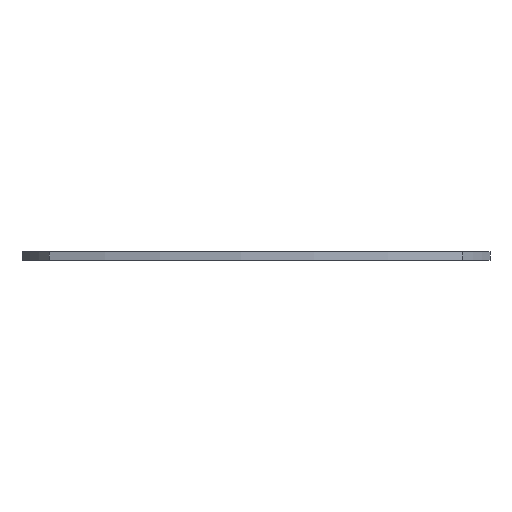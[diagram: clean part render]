
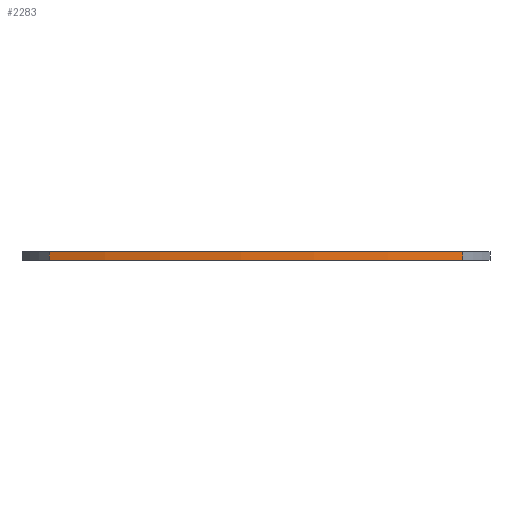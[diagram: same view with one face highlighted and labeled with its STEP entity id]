
A CAD part, front view. The second image highlights one B-rep face of the part: STEP entity #2283.
In plain terms, the highlighted free-form (B-spline) face has degree [2, 1] with [3, 2] control points.
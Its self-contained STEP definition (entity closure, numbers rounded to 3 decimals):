
#53 = B_SPLINE_CURVE_WITH_KNOTS ( 'NONE', 2,
 ( #2367, #2144, #711 ),
 .UNSPECIFIED., .F., .F.,
 ( 3, 3 ),
 ( 0., 1. ),
 .UNSPECIFIED. ) ;
#99 = CARTESIAN_POINT ( 'NONE',  ( -0.018, -80.898, 0. ) ) ;
#360 = B_SPLINE_CURVE_WITH_KNOTS ( 'NONE', 2,
 ( #858, #1898, #1677 ),
 .UNSPECIFIED., .F., .F.,
 ( 3, 3 ),
 ( 0., 1. ),
 .UNSPECIFIED. ) ;
#416 = EDGE_CURVE ( 'NONE', #1098, #1948, #360, .T. ) ;
#418 = VECTOR ( 'NONE', #2309, 1000. ) ;
#460 = B_SPLINE_SURFACE_WITH_KNOTS ( 'NONE', 2, 1, ( 
 ( #1364, #2022 ),
 ( #1399, #99 ),
 ( #2206, #2249 ) ),
 .UNSPECIFIED., .F., .F., .F.,
 ( 3, 3 ),
 ( 2, 2 ),
 ( 0., 1. ),
 ( 0., 1. ),
 .UNSPECIFIED. ) ;
#563 = FACE_OUTER_BOUND ( 'NONE', #2618, .T. ) ;
#630 = LINE ( 'NONE', #1455, #418 ) ;
#650 = CARTESIAN_POINT ( 'NONE',  ( 75.492, -55.21, 3. ) ) ;
#655 = ORIENTED_EDGE ( 'NONE', *, *, #1338, .T. ) ;
#711 = CARTESIAN_POINT ( 'NONE',  ( -75.517, -55.176, 3. ) ) ;
#835 = ORIENTED_EDGE ( 'NONE', *, *, #1625, .F. ) ;
#858 = CARTESIAN_POINT ( 'NONE',  ( 75.492, -55.21, 0. ) ) ;
#929 = VECTOR ( 'NONE', #2336, 1000. ) ;
#972 = CARTESIAN_POINT ( 'NONE',  ( -75.517, -55.176, 0. ) ) ;
#1098 = VERTEX_POINT ( 'NONE', #1539 ) ;
#1262 = ORIENTED_EDGE ( 'NONE', *, *, #416, .F. ) ;
#1338 = EDGE_CURVE ( 'NONE', #2403, #1660, #53, .T. ) ;
#1364 = CARTESIAN_POINT ( 'NONE',  ( 75.492, -55.21, 3. ) ) ;
#1399 = CARTESIAN_POINT ( 'NONE',  ( -0.018, -80.898, 3. ) ) ;
#1441 = CARTESIAN_POINT ( 'NONE',  ( 75.492, -55.21, 3. ) ) ;
#1455 = CARTESIAN_POINT ( 'NONE',  ( -75.517, -55.176, 3. ) ) ;
#1539 = CARTESIAN_POINT ( 'NONE',  ( 75.492, -55.21, 0. ) ) ;
#1625 = EDGE_CURVE ( 'NONE', #2403, #1098, #2094, .T. ) ;
#1660 = VERTEX_POINT ( 'NONE', #2141 ) ;
#1677 = CARTESIAN_POINT ( 'NONE',  ( -75.517, -55.176, 0. ) ) ;
#1898 = CARTESIAN_POINT ( 'NONE',  ( -0.018, -80.898, 0. ) ) ;
#1948 = VERTEX_POINT ( 'NONE', #972 ) ;
#2022 = CARTESIAN_POINT ( 'NONE',  ( 75.492, -55.21, 0. ) ) ;
#2094 = LINE ( 'NONE', #650, #929 ) ;
#2141 = CARTESIAN_POINT ( 'NONE',  ( -75.517, -55.176, 3. ) ) ;
#2144 = CARTESIAN_POINT ( 'NONE',  ( -0.018, -80.898, 3. ) ) ;
#2206 = CARTESIAN_POINT ( 'NONE',  ( -75.517, -55.176, 3. ) ) ;
#2249 = CARTESIAN_POINT ( 'NONE',  ( -75.517, -55.176, 0. ) ) ;
#2283 = ADVANCED_FACE ( 'NONE', ( #563 ), #460, .T. ) ;
#2309 = DIRECTION ( 'NONE',  ( 0., 0., -1. ) ) ;
#2336 = DIRECTION ( 'NONE',  ( 0., 0., -1. ) ) ;
#2367 = CARTESIAN_POINT ( 'NONE',  ( 75.492, -55.21, 3. ) ) ;
#2403 = VERTEX_POINT ( 'NONE', #1441 ) ;
#2424 = EDGE_CURVE ( 'NONE', #1660, #1948, #630, .T. ) ;
#2587 = ORIENTED_EDGE ( 'NONE', *, *, #2424, .T. ) ;
#2618 = EDGE_LOOP ( 'NONE', ( #1262, #835, #655, #2587 ) ) ;
